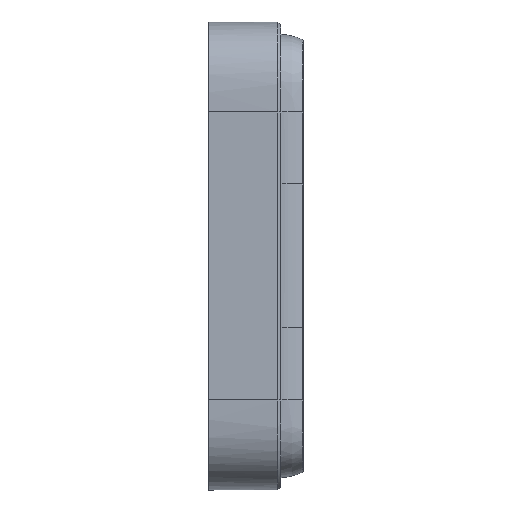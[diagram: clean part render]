
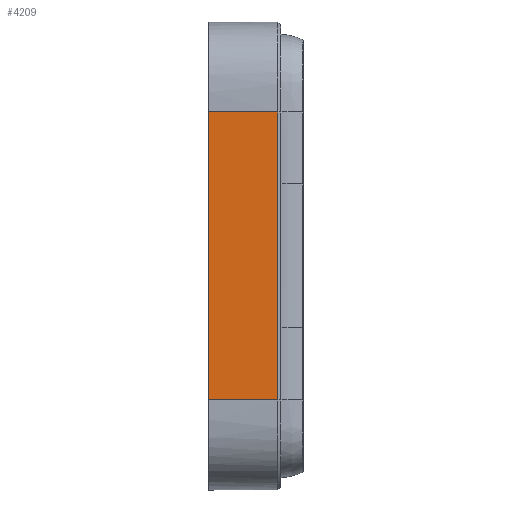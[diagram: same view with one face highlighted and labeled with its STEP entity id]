
A CAD part, front view. The second image highlights one B-rep face of the part: STEP entity #4209.
In plain terms, the highlighted planar face has unit normal (0, -1, 0).
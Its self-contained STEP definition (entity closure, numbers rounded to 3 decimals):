
#91=PLANE('',#4416);
#398=FACE_OUTER_BOUND('',#629,.T.);
#629=EDGE_LOOP('',(#3551,#3552,#3553,#3554));
#1245=LINE('',#13158,#1451);
#1295=LINE('',#16115,#1501);
#1296=LINE('',#16117,#1502);
#1297=LINE('',#16118,#1503);
#1451=VECTOR('',#4781,10.);
#1501=VECTOR('',#4899,10.);
#1502=VECTOR('',#4900,10.);
#1503=VECTOR('',#4901,10.);
#1824=VERTEX_POINT('',#13137);
#1827=VERTEX_POINT('',#13151);
#1896=VERTEX_POINT('',#16114);
#1897=VERTEX_POINT('',#16116);
#2362=EDGE_CURVE('',#1824,#1827,#1245,.T.);
#2497=EDGE_CURVE('',#1896,#1827,#1295,.T.);
#2498=EDGE_CURVE('',#1897,#1896,#1296,.T.);
#2499=EDGE_CURVE('',#1897,#1824,#1297,.T.);
#3551=ORIENTED_EDGE('',*,*,#2497,.F.);
#3552=ORIENTED_EDGE('',*,*,#2498,.F.);
#3553=ORIENTED_EDGE('',*,*,#2499,.T.);
#3554=ORIENTED_EDGE('',*,*,#2362,.T.);
#4209=ADVANCED_FACE('',(#398),#91,.T.);
#4416=AXIS2_PLACEMENT_3D('',#16113,#4897,#4898);
#4781=DIRECTION('',(-1.,0.,0.));
#4897=DIRECTION('center_axis',(0.,-1.,0.));
#4898=DIRECTION('ref_axis',(-1.,0.,0.));
#4899=DIRECTION('',(0.,0.,1.));
#4900=DIRECTION('',(-1.,0.,0.));
#4901=DIRECTION('',(0.,0.,1.));
#13137=CARTESIAN_POINT('',(-160.8,-90.,16.5));
#13151=CARTESIAN_POINT('',(-180.,-90.,16.5));
#13158=CARTESIAN_POINT('',(-160.,-90.,16.5));
#16113=CARTESIAN_POINT('Origin',(-160.8,-90.,-43.5));
#16114=CARTESIAN_POINT('',(-180.,-90.,-63.5));
#16115=CARTESIAN_POINT('',(-180.,-90.,-3.5));
#16116=CARTESIAN_POINT('',(-160.8,-90.,-63.5));
#16117=CARTESIAN_POINT('',(-160.,-90.,-63.5));
#16118=CARTESIAN_POINT('',(-160.8,-90.,-3.5));
